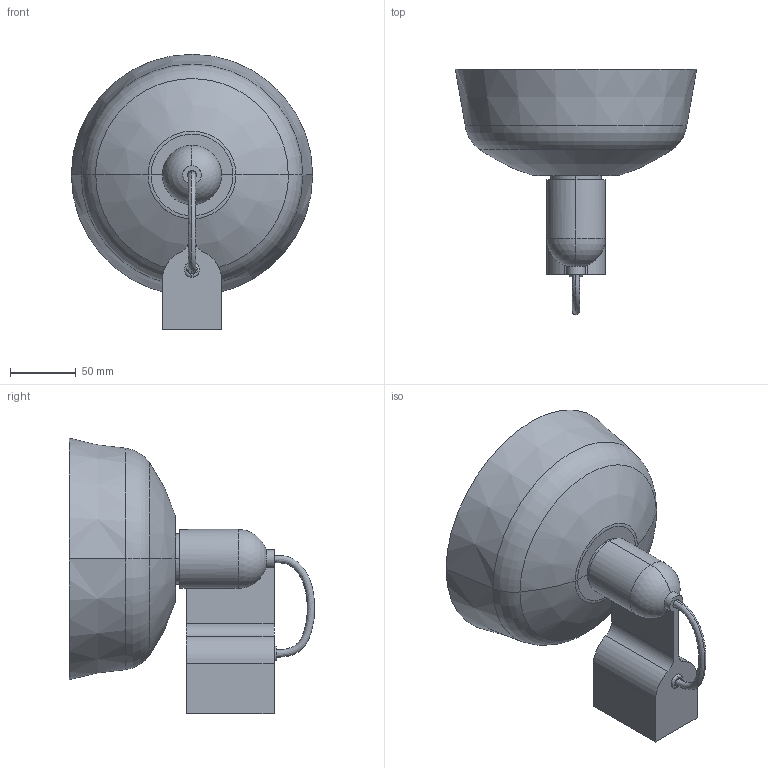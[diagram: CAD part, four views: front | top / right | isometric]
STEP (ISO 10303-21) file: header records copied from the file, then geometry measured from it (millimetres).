
FILE_DESCRIPTION(/* description */ (''),/* implementation_level */ '2;1');
FILE_NAME(/* name */ '20335-140.step',/* time_stamp */ '2024-10-21T11:44:28+02:00',/* author */ ('RenataManzini'),/* organization */ (''),/* preprocessor_version */ 'ST-DEVELOPER v20',/* originating_system */ 'AutoCAD Mechanical',/* authorisation */ '');
FILE_SCHEMA (('AUTOMOTIVE_DESIGN { 1 0 10303 214 3 1 1 }'));
Length unit declared in the file: millimetre
Products named in the file (1): Product
Bounding box: 184.01 x 187.04 x 210.01 mm (x, y, z)
Volume: 349222.8 mm3; surface area: 291701 mm2
Topology: 8 solids, 8 shells, 188 faces, 431 edges, 253 vertices
Faces by surface type: plane 59, cylinder 53, cone 26, bspline 20, torus 20, sphere 10
Entity records: 8558 total; most frequent: CARTESIAN_POINT 4466, ORIENTED_EDGE 846, DIRECTION 811, EDGE_CURVE 423, AXIS2_PLACEMENT_3D 314, VERTEX_POINT 247, EDGE_LOOP 198, FACE_OUTER_BOUND 188
